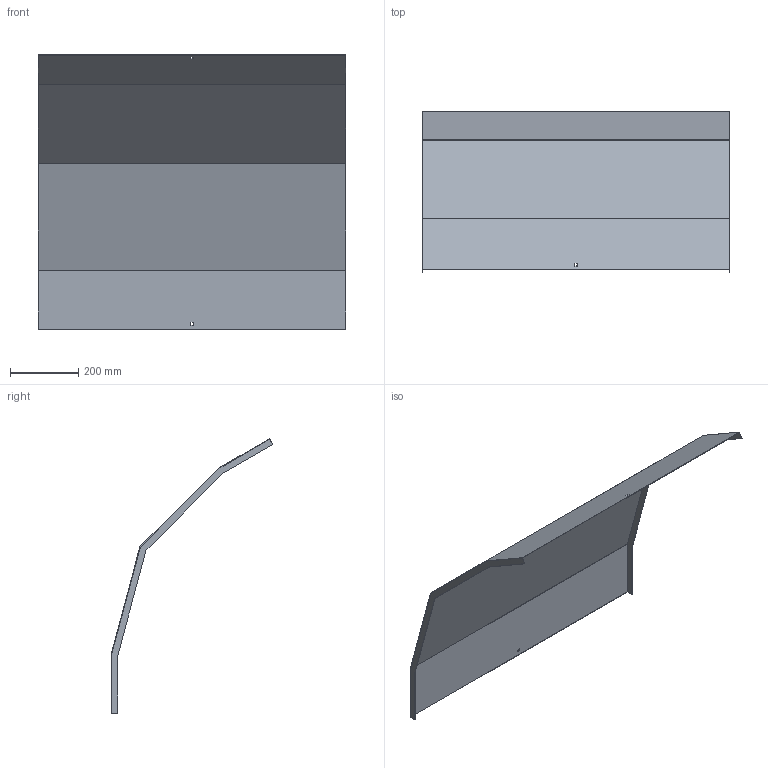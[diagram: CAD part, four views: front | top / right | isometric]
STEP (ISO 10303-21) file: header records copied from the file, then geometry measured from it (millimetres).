
FILE_DESCRIPTION (( 'STEP AP214' ), '1' );
FILE_NAME ('41N5F900.step', '2025-02-21T14:25:32', ( '' ), ( '' ), 'SwSTEP 2.0', 'SolidWorks 2023', '' );
FILE_SCHEMA (( 'AUTOMOTIVE_DESIGN' ));
Length unit declared in the file: millimetre
Products named in the file (1): 41N5F900
Bounding box: 903 x 475.35 x 806.02 mm (x, y, z)
Volume: 1407053.9 mm3; surface area: 1881921.3 mm2
Topology: 1 solids, 1 shells, 30 faces, 84 edges, 56 vertices
Faces by surface type: plane 30
Entity records: 979 total; most frequent: CARTESIAN_POINT 171, ORIENTED_EDGE 168, DIRECTION 146, VECTOR 84, LINE 84, EDGE_CURVE 84, VERTEX_POINT 56, EDGE_LOOP 34
